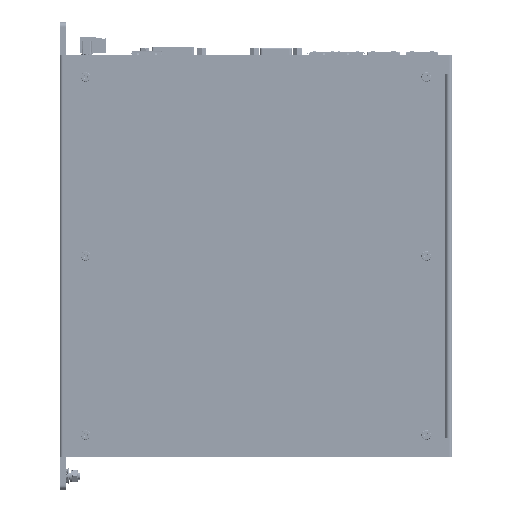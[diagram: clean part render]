
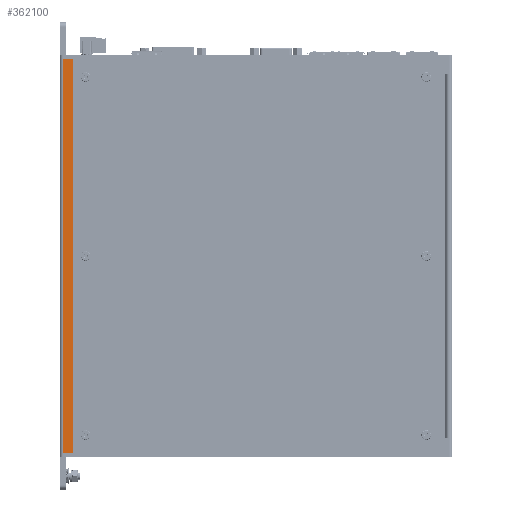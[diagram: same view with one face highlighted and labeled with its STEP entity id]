
A CAD part, front view. The second image highlights one B-rep face of the part: STEP entity #362100.
In plain terms, the highlighted planar face has unit normal (0, -1, 0) as drawn and (-1, 0, 0) by its records, which use the part's own axes.
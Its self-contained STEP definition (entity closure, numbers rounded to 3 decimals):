
#5227 = DIRECTION ( 'NONE',  ( -1., 0., 0. ) ) ;
#20177 = EDGE_CURVE ( 'NONE', #301275, #377322, #350187, .T. ) ;
#34196 = CARTESIAN_POINT ( 'NONE',  ( -45., 113., -2. ) ) ;
#38890 = DIRECTION ( 'NONE',  ( 0., -1., 0. ) ) ;
#40069 = FACE_OUTER_BOUND ( 'NONE', #579948, .T. ) ;
#45440 = EDGE_CURVE ( 'NONE', #657611, #574558, #422624, .T. ) ;
#54897 = AXIS2_PLACEMENT_3D ( 'NONE', #593935, #5227, #650808 ) ;
#64091 = VECTOR ( 'NONE', #285872, 1000. ) ;
#133943 = VECTOR ( 'NONE', #38890, 1000. ) ;
#136322 = CARTESIAN_POINT ( 'NONE',  ( -45., -113., -7.5 ) ) ;
#149908 = DIRECTION ( 'NONE',  ( 0., 1., 0. ) ) ;
#168350 = CARTESIAN_POINT ( 'NONE',  ( -45., 113., -2. ) ) ;
#236890 = EDGE_CURVE ( 'NONE', #301275, #574558, #508587, .T. ) ;
#268622 = PLANE ( 'NONE',  #54897 ) ;
#271927 = ORIENTED_EDGE ( 'NONE', *, *, #576561, .F. ) ;
#285872 = DIRECTION ( 'NONE',  ( 0., 0., 1. ) ) ;
#301275 = VERTEX_POINT ( 'NONE', #301773 ) ;
#301773 = CARTESIAN_POINT ( 'NONE',  ( -45., -113., -7.5 ) ) ;
#350187 = LINE ( 'NONE', #686378, #622006 ) ;
#362100 = ADVANCED_FACE ( 'NONE', ( #40069 ), #268622, .T. ) ;
#366984 = ORIENTED_EDGE ( 'NONE', *, *, #20177, .F. ) ;
#377322 = VERTEX_POINT ( 'NONE', #680917 ) ;
#397513 = CARTESIAN_POINT ( 'NONE',  ( -45., 113., -7.5 ) ) ;
#422624 = LINE ( 'NONE', #34196, #133943 ) ;
#449319 = VECTOR ( 'NONE', #679801, 1000. ) ;
#508587 = LINE ( 'NONE', #136322, #449319 ) ;
#566155 = ORIENTED_EDGE ( 'NONE', *, *, #45440, .F. ) ;
#574558 = VERTEX_POINT ( 'NONE', #693319 ) ;
#576561 = EDGE_CURVE ( 'NONE', #377322, #657611, #633490, .T. ) ;
#579948 = EDGE_LOOP ( 'NONE', ( #271927, #366984, #683759, #566155 ) ) ;
#593935 = CARTESIAN_POINT ( 'NONE',  ( -45., -113., -19. ) ) ;
#622006 = VECTOR ( 'NONE', #149908, 1000. ) ;
#633490 = LINE ( 'NONE', #397513, #64091 ) ;
#650808 = DIRECTION ( 'NONE',  ( 0., 0., 1. ) ) ;
#657611 = VERTEX_POINT ( 'NONE', #168350 ) ;
#679801 = DIRECTION ( 'NONE',  ( 0., 0., 1. ) ) ;
#680917 = CARTESIAN_POINT ( 'NONE',  ( -45., 113., -7.5 ) ) ;
#683759 = ORIENTED_EDGE ( 'NONE', *, *, #236890, .T. ) ;
#686378 = CARTESIAN_POINT ( 'NONE',  ( -45., -113., -7.5 ) ) ;
#693319 = CARTESIAN_POINT ( 'NONE',  ( -45., -113., -2. ) ) ;
